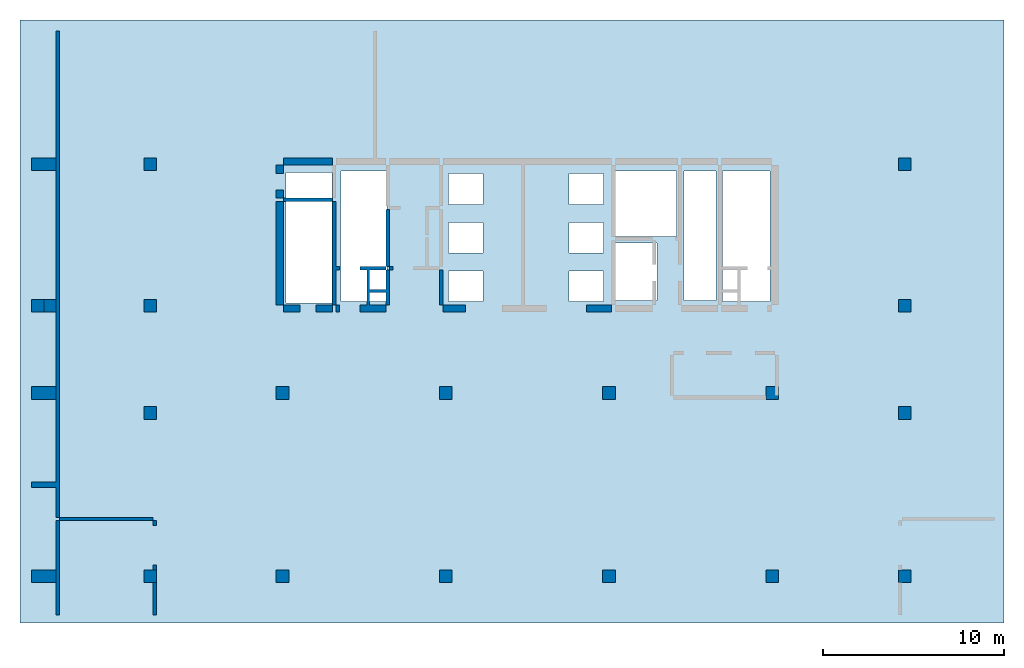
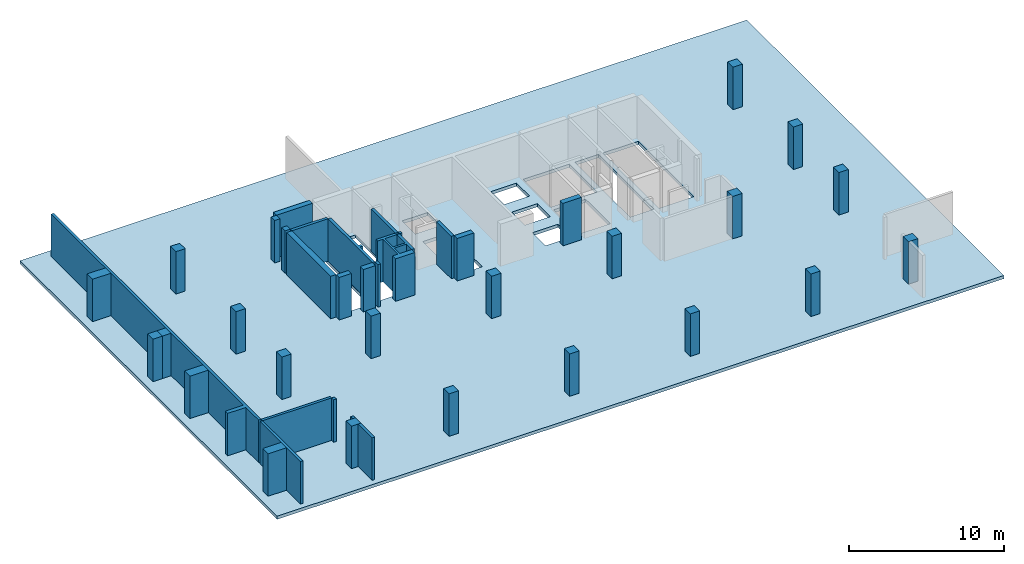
# One storey, part 1 of 2: 21 columns, 21 walls, 1 slab.
"""IFC4 building model written with IfcOpenShell, lengths in millimetres."""

from ifc_helpers import new_model, si_unit, frame, origin, place, context, project, spatial, triangles, element, save


model = new_model("IFC4")

# Units and contexts
model_context = context("Model", 3, precision=0.001, world=origin())
ifc_project = project(units=[si_unit("LENGTHUNIT", "METRE", prefix="MILLI"), si_unit("AREAUNIT", "SQUARE_METRE"), si_unit("VOLUMEUNIT", "CUBIC_METRE")], contexts=[model_context])

# Site, building, storey
site_placement = place(None, origin())
site = spatial("IfcSite", under=ifc_project, at=site_placement, Name="Site", CompositionType="ELEMENT")
building_placement = place(site_placement, origin())
building = spatial("IfcBuilding", under=site, at=building_placement, Name="INNOCEAN", CompositionType="ELEMENT")
storey_placement = place(building_placement, frame((0.0, 0.0, -27000.0)))
storey = spatial("IfcBuildingStorey", under=building, at=storey_placement, Name="B7", CompositionType="ELEMENT", Elevation=-27000.0)

# Columns
column_1_placement = place(storey_placement, origin())
element("IfcColumn", 1, at=column_1_placement, inside=storey, Name="B7_Columns_B7_001", context=model_context, shape_type="Tessellation", body=[
    triangles([(40114.8, 2023.7, 0.0), (40114.8, 2023.7, 3350.0), (40114.8, 2722.3, 0.0), (40114.8, 2722.3, 3350.0), (40813.0, 2023.7, 3350.0), (40813.0, 2023.7, 0.0), (40813.0, 2722.3, 0.0), (40813.0, 2722.3, 3350.0)], [[1, 2, 3], [3, 2, 4], [5, 6, 7], [5, 7, 8], [6, 5, 1], [1, 5, 2], [8, 7, 3], [8, 3, 4], [3, 7, 1], [1, 7, 6], [8, 4, 2], [8, 2, 5]], closed=True),
])
column_2_placement = place(storey_placement, origin())
element("IfcColumn", 2, at=column_2_placement, inside=storey, Name="B7_Columns_B7_002", context=model_context, shape_type="Tessellation", body=[
    triangles([(5843.1, 24721.0, 0.0), (5843.1, 24721.0, 3350.0), (5843.1, 25419.5, 0.0), (5843.1, 25419.5, 3350.0), (6541.2, 24721.0, 3350.0), (6541.2, 24721.0, 0.0), (6541.2, 25419.5, 0.0), (6541.2, 25419.5, 3350.0)], [[1, 2, 3], [3, 2, 4], [5, 6, 7], [5, 7, 8], [6, 5, 1], [1, 5, 2], [8, 7, 3], [8, 3, 4], [1, 3, 6], [3, 7, 6], [4, 2, 5], [8, 4, 5]], closed=True),
])
column_3_placement = place(storey_placement, origin())
element("IfcColumn", 3, at=column_3_placement, inside=storey, Name="B7_Columns_B7_003", context=model_context, shape_type="Tessellation", body=[
    triangles([(5843.1, 16922.4, 0.0), (5843.1, 16922.4, 3350.0), (5843.1, 17620.9, 0.0), (5843.1, 17620.9, 3350.0), (6541.2, 16922.4, 3350.0), (6541.2, 16922.4, 0.0), (6541.2, 17620.9, 0.0), (6541.2, 17620.9, 3350.0)], [[1, 2, 3], [3, 2, 4], [5, 6, 7], [5, 7, 8], [6, 5, 1], [1, 5, 2], [8, 7, 3], [8, 3, 4], [1, 3, 6], [3, 7, 6], [4, 2, 5], [8, 4, 5]], closed=True),
])
column_4_placement = place(storey_placement, origin())
element("IfcColumn", 4, at=column_4_placement, inside=storey, Name="B7_Columns_B7_004", context=model_context, shape_type="Tessellation", body=[
    triangles([(47413.4, 24721.0, 0.0), (47413.4, 24721.0, 3350.0), (47413.4, 25419.5, 0.0), (47413.4, 25419.5, 3350.0), (48111.6, 24721.0, 3350.0), (48111.6, 24721.0, 0.0), (48111.6, 25419.5, 0.0), (48111.6, 25419.5, 3350.0)], [[1, 2, 3], [3, 2, 4], [5, 6, 7], [5, 7, 8], [6, 5, 1], [1, 5, 2], [8, 7, 3], [8, 3, 4], [1, 3, 6], [3, 7, 6], [4, 2, 5], [8, 4, 5]], closed=True),
])
column_5_placement = place(storey_placement, origin())
element("IfcColumn", 5, at=column_5_placement, inside=storey, Name="B7_Columns_B7_005", context=model_context, shape_type="Tessellation", body=[
    triangles([(47413.4, 16922.4, 0.0), (47413.4, 16922.4, 3350.0), (47413.4, 17620.9, 0.0), (47413.4, 17620.9, 3350.0), (48111.6, 16922.4, 3350.0), (48111.6, 16922.4, 0.0), (48111.6, 17620.9, 0.0), (48111.6, 17620.9, 3350.0)], [[1, 2, 3], [3, 2, 4], [5, 6, 7], [5, 7, 8], [6, 5, 1], [1, 5, 2], [8, 7, 3], [8, 3, 4], [1, 3, 6], [3, 7, 6], [4, 2, 5], [8, 4, 5]], closed=True),
])
column_6_placement = place(storey_placement, origin())
element("IfcColumn", 6, at=column_6_placement, inside=storey, Name="B7_Columns_B7_006", context=model_context, shape_type="Tessellation", body=[
    triangles([(-363.9, 16922.4, 0.0), (-363.9, 16922.4, 3350.0), (-363.9, 17620.9, 0.0), (-363.9, 17620.9, 3350.0), (994.3, 16922.4, 3350.0), (994.3, 16922.4, 0.0), (994.3, 17620.9, 0.0), (994.3, 17620.9, 3350.0)], [[1, 2, 3], [3, 2, 4], [5, 6, 7], [5, 7, 8], [6, 5, 1], [1, 5, 2], [8, 7, 3], [8, 3, 4], [3, 7, 1], [1, 7, 6], [8, 4, 2], [8, 2, 5]], closed=True),
])
column_7_placement = place(storey_placement, origin())
element("IfcColumn", 7, at=column_7_placement, inside=storey, Name="B7_Columns_B7_007", context=model_context, shape_type="Tessellation", body=[
    triangles([(13129.0, 2023.7, 0.0), (13129.0, 2023.7, 3350.0), (13129.0, 2722.3, 0.0), (13129.0, 2722.3, 3350.0), (13827.2, 2023.7, 3350.0), (13827.2, 2023.7, 0.0), (13827.2, 2722.3, 0.0), (13827.2, 2722.3, 3350.0)], [[1, 2, 3], [3, 2, 4], [5, 6, 7], [5, 7, 8], [6, 5, 1], [1, 5, 2], [8, 7, 3], [8, 3, 4], [3, 7, 1], [1, 7, 6], [8, 4, 2], [8, 2, 5]], closed=True),
])
column_8_placement = place(storey_placement, origin())
element("IfcColumn", 8, at=column_8_placement, inside=storey, Name="B7_Columns_B7_008", context=model_context, shape_type="Tessellation", body=[
    triangles([(-363.9, 16922.4, 0.0), (-363.9, 16922.4, 3350.0), (-363.9, 17620.9, 0.0), (-363.9, 17620.9, 3350.0), (334.3, 16922.4, 3350.0), (334.3, 16922.4, 0.0), (334.3, 17620.9, 0.0), (334.3, 17620.9, 3350.0)], [[1, 2, 3], [3, 2, 4], [5, 6, 7], [5, 7, 8], [6, 5, 1], [1, 5, 2], [8, 7, 3], [8, 3, 4], [3, 7, 1], [1, 7, 6], [8, 4, 2], [8, 2, 5]], closed=True),
])
column_9_placement = place(storey_placement, origin())
element("IfcColumn", 9, at=column_9_placement, inside=storey, Name="B7_Columns_B7_009", context=model_context, shape_type="Tessellation", body=[
    triangles([(47413.4, 2023.7, 0.0), (47413.4, 2023.7, 3350.0), (47413.4, 2722.3, 0.0), (47413.4, 2722.3, 3350.0), (48111.6, 2023.7, 3350.0), (48111.6, 2023.7, 0.0), (48111.6, 2722.3, 0.0), (48111.6, 2722.3, 3350.0)], [[1, 2, 3], [3, 2, 4], [5, 6, 7], [5, 7, 8], [6, 5, 1], [1, 5, 2], [8, 7, 3], [8, 3, 4], [3, 7, 1], [1, 7, 6], [8, 4, 2], [8, 2, 5]], closed=True),
])
column_10_placement = place(storey_placement, origin())
element("IfcColumn", 10, at=column_10_placement, inside=storey, Name="B7_Columns_B7_010", context=model_context, shape_type="Tessellation", body=[
    triangles([(13129.0, 12121.3, 0.0), (13129.0, 12121.3, 3350.0), (13129.0, 12819.8, 0.0), (13129.0, 12819.8, 3350.0), (13827.2, 12121.3, 3350.0), (13827.2, 12121.3, 0.0), (13827.2, 12819.8, 0.0), (13827.2, 12819.8, 3350.0)], [[1, 2, 3], [3, 2, 4], [5, 6, 7], [5, 7, 8], [6, 5, 1], [1, 5, 2], [8, 7, 3], [8, 3, 4], [3, 7, 1], [1, 7, 6], [8, 4, 2], [8, 2, 5]], closed=True),
])
column_11_placement = place(storey_placement, origin())
element("IfcColumn", 11, at=column_11_placement, inside=storey, Name="B7_Columns_B7_011", context=model_context, shape_type="Tessellation", body=[
    triangles([(5843.1, 11016.3, 0.0), (5843.1, 11016.3, 3350.0), (5843.1, 11727.5, 0.0), (5843.1, 11727.5, 3350.0), (6541.2, 11016.3, 3350.0), (6541.2, 11016.3, 0.0), (6541.2, 11727.5, 0.0), (6541.2, 11727.5, 3350.0)], [[1, 2, 3], [3, 2, 4], [5, 6, 7], [5, 7, 8], [6, 5, 1], [1, 5, 2], [8, 7, 3], [8, 3, 4], [3, 7, 1], [1, 7, 6], [8, 4, 2], [8, 2, 5]], closed=True),
])
column_12_placement = place(storey_placement, origin())
element("IfcColumn", 12, at=column_12_placement, inside=storey, Name="B7_Columns_B7_012", context=model_context, shape_type="Tessellation", body=[
    triangles([(40114.8, 12121.3, 0.0), (40114.8, 12121.3, 3350.0), (40114.8, 12819.8, 0.0), (40114.8, 12819.8, 3350.0), (40813.0, 12121.3, 3350.0), (40813.0, 12121.3, 0.0), (40813.0, 12819.8, 0.0), (40813.0, 12819.8, 3350.0)], [[1, 2, 3], [3, 2, 4], [5, 6, 7], [5, 7, 8], [6, 5, 1], [1, 5, 2], [8, 7, 3], [8, 3, 4], [1, 3, 6], [3, 7, 6], [4, 2, 5], [8, 4, 5]], closed=True),
])
column_13_placement = place(storey_placement, origin())
element("IfcColumn", 13, at=column_13_placement, inside=storey, Name="B7_Columns_B7_013", context=model_context, shape_type="Tessellation", body=[
    triangles([(5843.1, 2023.7, 0.0), (5843.1, 2023.7, 3350.0), (5843.1, 2722.3, 0.0), (5843.1, 2722.3, 3350.0), (6541.2, 2023.7, 3350.0), (6541.2, 2023.7, 0.0), (6541.2, 2722.3, 0.0), (6541.2, 2722.3, 3350.0)], [[1, 2, 3], [3, 2, 4], [5, 6, 7], [5, 7, 8], [6, 5, 1], [1, 5, 2], [8, 7, 3], [8, 3, 4], [1, 3, 6], [3, 7, 6], [4, 2, 5], [8, 4, 5]], closed=True),
])
column_14_placement = place(storey_placement, origin())
element("IfcColumn", 14, at=column_14_placement, inside=storey, Name="B7_Columns_B7_014", context=model_context, shape_type="Tessellation", body=[
    triangles([(-363.9, 2023.7, 0.0), (-363.9, 2023.7, 3350.0), (-363.9, 2722.3, 0.0), (-363.9, 2722.3, 3350.0), (994.3, 2023.7, 3350.0), (994.3, 2023.7, 0.0), (994.3, 2722.3, 0.0), (994.3, 2722.3, 3350.0)], [[1, 2, 3], [3, 2, 4], [5, 6, 7], [5, 7, 8], [6, 5, 1], [1, 5, 2], [8, 7, 3], [8, 3, 4], [3, 7, 1], [1, 7, 6], [8, 4, 2], [8, 2, 5]], closed=True),
])
column_15_placement = place(storey_placement, origin())
element("IfcColumn", 15, at=column_15_placement, inside=storey, Name="B7_Columns_B7_015", context=model_context, shape_type="Tessellation", body=[
    triangles([(-363.9, 24721.0, 0.0), (-363.9, 24721.0, 3350.0), (-363.9, 25419.5, 0.0), (-363.9, 25419.5, 3350.0), (994.3, 24721.0, 3350.0), (994.3, 24721.0, 0.0), (994.3, 25419.5, 0.0), (994.3, 25419.5, 3350.0)], [[1, 2, 3], [3, 2, 4], [5, 6, 7], [5, 7, 8], [6, 5, 1], [1, 5, 2], [8, 7, 3], [8, 3, 4], [3, 7, 1], [1, 7, 6], [8, 4, 2], [8, 2, 5]], closed=True),
])
column_16_placement = place(storey_placement, origin())
element("IfcColumn", 16, at=column_16_placement, inside=storey, Name="B7_Columns_B7_016", context=model_context, shape_type="Tessellation", body=[
    triangles([(-363.9, 12121.3, 0.0), (-363.9, 12121.3, 3350.0), (-363.9, 12819.8, 0.0), (-363.9, 12819.8, 3350.0), (994.3, 12121.3, 3350.0), (994.3, 12121.3, 0.0), (994.3, 12819.8, 0.0), (994.3, 12819.8, 3350.0)], [[1, 2, 3], [3, 2, 4], [5, 6, 7], [5, 7, 8], [6, 5, 1], [1, 5, 2], [8, 7, 3], [8, 3, 4], [3, 7, 1], [1, 7, 6], [8, 4, 2], [8, 2, 5]], closed=True),
])
column_17_placement = place(storey_placement, origin())
element("IfcColumn", 17, at=column_17_placement, inside=storey, Name="B7_Columns_B7_017", context=model_context, shape_type="Tessellation", body=[
    triangles([(31128.0, 12121.3, 0.0), (31128.0, 12121.3, 3350.0), (31128.0, 12819.8, 0.0), (31128.0, 12819.8, 3350.0), (31826.2, 12121.3, 3350.0), (31826.2, 12121.3, 0.0), (31826.2, 12819.8, 0.0), (31826.2, 12819.8, 3350.0)], [[1, 2, 3], [3, 2, 4], [5, 6, 7], [5, 7, 8], [6, 5, 1], [1, 5, 2], [8, 7, 3], [8, 3, 4], [3, 7, 1], [1, 7, 6], [8, 4, 2], [8, 2, 5]], closed=True),
])
column_18_placement = place(storey_placement, origin())
element("IfcColumn", 18, at=column_18_placement, inside=storey, Name="B7_Columns_B7_018", context=model_context, shape_type="Tessellation", body=[
    triangles([(22128.5, 12121.3, 0.0), (22128.5, 12121.3, 3350.0), (22128.5, 12819.8, 0.0), (22128.5, 12819.8, 3350.0), (22826.7, 12121.3, 3350.0), (22826.7, 12121.3, 0.0), (22826.7, 12819.8, 0.0), (22826.7, 12819.8, 3350.0)], [[1, 2, 3], [3, 2, 4], [5, 6, 7], [5, 7, 8], [6, 5, 1], [1, 5, 2], [8, 7, 3], [8, 3, 4], [3, 7, 1], [1, 7, 6], [8, 4, 2], [8, 2, 5]], closed=True),
])
column_19_placement = place(storey_placement, origin())
element("IfcColumn", 19, at=column_19_placement, inside=storey, Name="B7_Columns_B7_019", context=model_context, shape_type="Tessellation", body=[
    triangles([(31128.0, 2023.7, 0.0), (31128.0, 2023.7, 3350.0), (31128.0, 2722.3, 0.0), (31128.0, 2722.3, 3350.0), (31826.2, 2023.7, 3350.0), (31826.2, 2023.7, 0.0), (31826.2, 2722.3, 0.0), (31826.2, 2722.3, 3350.0)], [[1, 2, 3], [3, 2, 4], [5, 6, 7], [5, 7, 8], [6, 5, 1], [1, 5, 2], [8, 7, 3], [8, 3, 4], [3, 7, 1], [1, 7, 6], [8, 4, 2], [8, 2, 5]], closed=True),
])
column_20_placement = place(storey_placement, origin())
element("IfcColumn", 20, at=column_20_placement, inside=storey, Name="B7_Columns_B7_020", context=model_context, shape_type="Tessellation", body=[
    triangles([(22128.5, 2023.7, 0.0), (22128.5, 2023.7, 3350.0), (22128.5, 2722.3, 0.0), (22128.5, 2722.3, 3350.0), (22826.7, 2023.7, 3350.0), (22826.7, 2023.7, 0.0), (22826.7, 2722.3, 0.0), (22826.7, 2722.3, 3350.0)], [[1, 2, 3], [3, 2, 4], [5, 6, 7], [5, 7, 8], [6, 5, 1], [1, 5, 2], [8, 7, 3], [8, 3, 4], [3, 7, 1], [1, 7, 6], [8, 4, 2], [8, 2, 5]], closed=True),
])
column_21_placement = place(storey_placement, origin())
element("IfcColumn", 21, at=column_21_placement, inside=storey, Name="B7_Columns_B7_021", context=model_context, shape_type="Tessellation", body=[
    triangles([(47413.4, 11016.3, 0.0), (47413.4, 11016.3, 3350.0), (47413.4, 11727.5, 0.0), (47413.4, 11727.5, 3350.0), (48111.6, 11016.3, 3350.0), (48111.6, 11016.3, 0.0), (48111.6, 11727.5, 0.0), (48111.6, 11727.5, 3350.0)], [[1, 2, 3], [3, 2, 4], [5, 6, 7], [5, 7, 8], [6, 5, 1], [1, 5, 2], [8, 7, 3], [8, 3, 4], [3, 7, 1], [1, 7, 6], [8, 4, 2], [8, 2, 5]], closed=True),
])

# Slab
slab_placement = place(storey_placement, origin())
element("IfcSlab", 22, at=slab_placement, inside=storey, Name="B7_Slab_B7_001", context=model_context, shape_type="Tessellation", body=[
    triangles([(-987.250996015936, 33023.3766233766, 0.0), (53241.0358565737, 33023.3766233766, 0.0), (-987.250996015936, 33023.3766233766, -250.0), (53241.0358565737, 33023.3766233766, -250.0), (-987.250996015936, -211.688311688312, 0.0), (-987.250996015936, -211.688311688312, -250.0), (53241.0358565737, -211.688311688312, 0.0), (53241.0358565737, -211.688311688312, -250.0), (34130.6772908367, 20745.4545454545, -250.0), (31733.0677290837, 20745.4545454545, 0.0), (31733.0677290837, 20745.4545454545, -250.0), (34130.6772908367, 20745.4545454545, 0.0), (31733.0677290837, 17570.1298701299, 0.0), (31733.0677290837, 17570.1298701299, -250.0), (34130.6772908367, 17570.1298701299, 0.0), (34130.6772908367, 17570.1298701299, -250.0), (31168.9243027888, 19193.0735930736, 0.0), (29264.9402390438, 19193.0735930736, 0.0), (29264.9402390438, 19193.0735930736, -250.0), (31168.9243027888, 19193.0735930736, -250.0), (31168.9243027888, 17499.5670995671, 0.0), (31168.9243027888, 17499.5670995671, -250.0), (29264.9402390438, 17499.5670995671, 0.0), (29264.9402390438, 17499.5670995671, -250.0), (31168.9243027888, 21874.4588744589, 0.0), (29264.9402390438, 21874.4588744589, 0.0), (29264.9402390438, 21874.4588744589, -250.0), (31168.9243027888, 21874.4588744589, -250.0), (29264.9402390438, 20180.9523809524, 0.0), (29264.9402390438, 20180.9523809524, -250.0), (31168.9243027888, 20180.9523809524, 0.0), (31168.9243027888, 20180.9523809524, -250.0), (24540.2390438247, 19193.0735930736, -250.0), (22636.2549800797, 19193.0735930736, 0.0), (22636.2549800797, 19193.0735930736, -250.0), (24540.2390438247, 19193.0735930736, 0.0), (22636.2549800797, 17499.5670995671, 0.0), (22636.2549800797, 17499.5670995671, -250.0), (24540.2390438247, 17499.5670995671, 0.0), (24540.2390438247, 17499.5670995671, -250.0), (24540.2390438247, 21874.4588744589, -250.0), (22636.2549800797, 21874.4588744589, 0.0), (22636.2549800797, 21874.4588744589, -250.0), (24540.2390438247, 21874.4588744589, 0.0), (22636.2549800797, 20180.9523809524, 0.0), (22636.2549800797, 20180.9523809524, -250.0), (24540.2390438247, 20180.9523809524, 0.0), (24540.2390438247, 20180.9523809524, -250.0), (16219.1235059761, 24626.4069264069, 0.0), (13680.4780876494, 24626.4069264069, 0.0), (13680.4780876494, 24626.4069264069, -250.0), (16219.1235059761, 24626.4069264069, -250.0), (13680.4780876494, 17429.0043290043, 0.0), (13680.4780876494, 17429.0043290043, -250.0), (16219.1235059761, 17429.0043290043, 0.0), (16219.1235059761, 17429.0043290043, -250.0), (40336.2549800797, 24696.9696969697, -250.0), (37727.0916334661, 24696.9696969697, 0.0), (37727.0916334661, 24696.9696969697, -250.0), (40336.2549800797, 24696.9696969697, 0.0), (37727.0916334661, 17499.5670995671, 0.0), (37727.0916334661, 17499.5670995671, -250.0), (40336.2549800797, 17499.5670995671, 0.0), (40336.2549800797, 17499.5670995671, -250.0), (37374.5019920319, 24696.9696969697, 0.0), (35611.5537848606, 24696.9696969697, 0.0), (35611.5537848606, 24696.9696969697, -250.0), (37374.5019920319, 24696.9696969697, -250.0), (35611.5537848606, 17570.1298701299, 0.0), (35611.5537848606, 17570.1298701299, -250.0), (37374.5019920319, 17570.1298701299, 0.0), (37374.5019920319, 17570.1298701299, -250.0), (35188.4462151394, 24696.9696969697, 0.0), (31733.0677290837, 24696.9696969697, 0.0), (31733.0677290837, 24696.9696969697, -250.0), (35188.4462151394, 24696.9696969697, -250.0), (31733.0677290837, 21098.2683982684, 0.0), (31733.0677290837, 21098.2683982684, -250.0), (35188.4462151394, 21098.2683982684, 0.0), (35188.4462151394, 21098.2683982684, -250.0), (31168.9243027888, 24555.8441558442, 0.0), (29264.9402390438, 24555.8441558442, 0.0), (29264.9402390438, 24555.8441558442, -250.0), (31168.9243027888, 24555.8441558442, -250.0), (29264.9402390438, 22862.3376623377, 0.0), (29264.9402390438, 22862.3376623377, -250.0), (31168.9243027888, 22862.3376623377, 0.0), (31168.9243027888, 22862.3376623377, -250.0), (19251.3944223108, 24696.9696969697, 0.0), (16712.7490039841, 24696.9696969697, 0.0), (16712.7490039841, 24696.9696969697, -250.0), (19251.3944223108, 24696.9696969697, -250.0), (16712.7490039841, 17499.5670995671, 0.0), (16712.7490039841, 17499.5670995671, -250.0), (19251.3944223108, 17499.5670995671, 0.0), (19251.3944223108, 17499.5670995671, -250.0), (24540.2390438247, 24555.8441558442, -250.0), (22636.2549800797, 24555.8441558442, 0.0), (22636.2549800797, 24555.8441558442, -250.0), (24540.2390438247, 24555.8441558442, 0.0), (22636.2549800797, 22862.3376623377, 0.0), (22636.2549800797, 22862.3376623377, -250.0), (24540.2390438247, 22862.3376623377, 0.0), (24540.2390438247, 22862.3376623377, -250.0)], [[1, 2, 3], [3, 2, 4], [5, 1, 6], [6, 1, 3], [2, 7, 4], [4, 7, 8], [7, 5, 8], [8, 5, 6], [9, 10, 11], [12, 10, 9], [10, 13, 14], [10, 14, 11], [15, 12, 9], [15, 9, 16], [14, 15, 16], [13, 15, 14], [17, 18, 19], [17, 19, 20], [21, 17, 20], [21, 20, 22], [23, 21, 22], [23, 22, 24], [18, 23, 24], [18, 24, 19], [25, 26, 27], [25, 27, 28], [26, 29, 30], [26, 30, 27], [31, 25, 28], [31, 28, 32], [29, 31, 32], [29, 32, 30], [33, 34, 35], [36, 34, 33], [34, 37, 38], [34, 38, 35], [39, 36, 33], [39, 33, 40], [38, 39, 40], [37, 39, 38], [41, 42, 43], [44, 42, 41], [42, 45, 46], [42, 46, 43], [47, 44, 41], [47, 41, 48], [46, 47, 48], [45, 47, 46], [49, 50, 51], [49, 51, 52], [50, 53, 54], [50, 54, 51], [55, 49, 52], [55, 52, 56], [53, 55, 56], [53, 56, 54], [57, 58, 59], [60, 58, 57], [58, 61, 62], [58, 62, 59], [63, 60, 57], [63, 57, 64], [62, 63, 64], [61, 63, 62], [65, 66, 67], [65, 67, 68], [66, 69, 70], [66, 70, 67], [71, 65, 68], [71, 68, 72], [69, 71, 72], [69, 72, 70], [73, 74, 75], [73, 75, 76], [74, 77, 78], [74, 78, 75], [79, 73, 76], [79, 76, 80], [77, 79, 80], [77, 80, 78], [81, 82, 83], [81, 83, 84], [82, 85, 86], [82, 86, 83], [87, 81, 84], [87, 84, 88], [85, 87, 88], [85, 88, 86], [89, 90, 91], [89, 91, 92], [90, 93, 94], [90, 94, 91], [95, 89, 92], [95, 92, 96], [93, 95, 96], [93, 96, 94], [97, 98, 99], [100, 98, 97], [98, 101, 102], [98, 102, 99], [103, 100, 97], [103, 97, 104], [102, 103, 104], [101, 103, 102], [63, 61, 7], [7, 2, 63], [71, 69, 61], [61, 69, 7], [69, 15, 7], [2, 60, 63], [13, 21, 15], [15, 21, 7], [79, 12, 69], [69, 12, 15], [2, 58, 60], [2, 65, 58], [13, 17, 21], [21, 23, 7], [17, 10, 31], [2, 66, 65], [12, 77, 10], [10, 77, 31], [2, 73, 66], [66, 73, 79], [31, 18, 17], [77, 25, 31], [31, 29, 18], [77, 87, 25], [23, 39, 7], [2, 74, 73], [74, 81, 87], [87, 85, 25], [25, 85, 26], [23, 36, 39], [18, 36, 23], [74, 82, 81], [29, 47, 18], [18, 47, 36], [26, 44, 29], [29, 44, 47], [47, 45, 36], [36, 45, 34], [34, 95, 37], [45, 95, 34], [85, 103, 26], [26, 103, 44], [82, 103, 85], [45, 42, 95], [103, 42, 44], [82, 100, 103], [103, 101, 42], [39, 5, 7], [37, 5, 39], [95, 5, 37], [95, 55, 5], [93, 55, 95], [55, 53, 5], [101, 89, 42], [42, 89, 95], [98, 89, 101], [90, 49, 93], [93, 49, 55], [90, 50, 49], [50, 1, 53], [89, 1, 90], [53, 1, 5], [90, 1, 50], [2, 1, 74], [74, 1, 82], [82, 1, 100], [100, 1, 98], [98, 1, 89], [13, 10, 17], [69, 66, 79], [65, 71, 58], [58, 71, 61], [77, 74, 87], [79, 77, 12], [62, 64, 8], [4, 8, 64], [70, 72, 62], [70, 62, 8], [16, 70, 8], [57, 4, 64], [22, 14, 16], [22, 16, 8], [9, 80, 70], [9, 70, 16], [59, 4, 57], [68, 4, 59], [20, 14, 22], [24, 22, 8], [11, 20, 32], [67, 4, 68], [78, 9, 11], [78, 11, 32], [76, 4, 67], [76, 67, 80], [19, 32, 20], [28, 78, 32], [30, 32, 19], [88, 78, 28], [40, 24, 8], [75, 4, 76], [84, 75, 88], [86, 88, 28], [86, 28, 27], [33, 24, 40], [33, 19, 24], [83, 75, 84], [48, 30, 19], [48, 19, 33], [41, 27, 30], [41, 30, 48], [46, 48, 33], [46, 33, 35], [96, 35, 38], [96, 46, 35], [104, 86, 27], [104, 27, 41], [104, 83, 86], [43, 46, 96], [43, 104, 41], [97, 83, 104], [102, 104, 43], [6, 40, 8], [6, 38, 40], [6, 96, 38], [56, 96, 6], [56, 94, 96], [54, 56, 6], [92, 102, 43], [92, 43, 96], [92, 99, 102], [52, 91, 94], [52, 94, 56], [51, 91, 52], [3, 51, 54], [3, 92, 91], [3, 54, 6], [3, 91, 51], [3, 4, 75], [3, 75, 83], [3, 83, 97], [3, 97, 99], [3, 99, 92], [11, 14, 20], [67, 70, 80], [72, 68, 59], [72, 59, 62], [75, 78, 88], [78, 80, 9]], closed=True),
])

# Walls
wall_1_placement = place(storey_placement, origin())
element("IfcWall", 23, at=wall_1_placement, inside=storey, Name="B7_Walls_B7_001", context=model_context, shape_type="Tessellation", body=[
    triangles([(6541.2, 2023.7, 0.0), (6338.1, 2023.7, 0.0), (6338.1, 2023.7, 3350.0), (6541.2, 2023.7, 3350.0), (6541.2, 220.2, 0.0), (6541.2, 220.2, 3350.0), (6338.1, 220.2, 0.0), (6338.1, 220.2, 3350.0)], [[1, 2, 3], [1, 3, 4], [5, 1, 4], [5, 4, 6], [7, 5, 6], [7, 6, 8], [2, 7, 8], [2, 8, 3], [2, 1, 5], [2, 5, 7], [4, 3, 6], [6, 3, 8]], closed=True),
])
wall_2_placement = place(storey_placement, origin())
element("IfcWall", 24, at=wall_2_placement, inside=storey, Name="B7_Walls_B7_002", context=model_context, shape_type="Tessellation", body=[
    triangles([(1184.7, 220.2, 0.0), (1184.7, 5427.7, 0.0), (1184.7, 5427.7, 3350.0), (1184.7, 220.2, 3350.0), (994.3, 220.2, 0.0), (994.3, 220.2, 3350.0), (994.3, 5427.7, 0.0), (994.3, 5427.7, 3350.0)], [[1, 2, 3], [1, 3, 4], [5, 1, 4], [5, 4, 6], [7, 5, 6], [7, 6, 8], [2, 7, 8], [2, 8, 3], [7, 2, 1], [7, 1, 5], [3, 8, 4], [4, 8, 6]], closed=True),
])
wall_3_placement = place(storey_placement, origin())
element("IfcWall", 25, at=wall_3_placement, inside=storey, Name="B7_Walls_B7_003", context=model_context, shape_type="Tessellation", body=[
    triangles([(6541.2, 2722.3, 0.0), (6541.2, 2976.3, 0.0), (6541.2, 2976.3, 3350.0), (6541.2, 2722.3, 3350.0), (6338.1, 2722.3, 0.0), (6338.1, 2722.3, 3350.0), (6338.1, 2976.3, 0.0), (6338.1, 2976.3, 3350.0)], [[1, 2, 3], [1, 3, 4], [5, 1, 4], [5, 4, 6], [7, 5, 6], [7, 6, 8], [2, 7, 8], [2, 8, 3], [2, 1, 5], [7, 2, 5], [4, 3, 6], [3, 8, 6]], closed=True),
])
wall_4_placement = place(storey_placement, origin())
element("IfcWall", 26, at=wall_4_placement, inside=storey, Name="B7_Walls_B7_004", context=model_context, shape_type="Tessellation", body=[
    triangles([(6338.1, 5173.7, 0.0), (6541.2, 5173.7, 0.0), (6541.2, 5173.7, 3350.0), (6338.1, 5173.7, 3350.0), (6338.1, 5427.7, 0.0), (6338.1, 5427.7, 3350.0), (6541.2, 5427.7, 0.0), (6541.2, 5427.7, 3350.0)], [[1, 2, 3], [1, 3, 4], [5, 1, 4], [5, 4, 6], [7, 5, 6], [7, 6, 8], [2, 7, 8], [2, 8, 3], [7, 2, 1], [5, 7, 1], [3, 8, 4], [8, 6, 4]], closed=True),
])
wall_5_placement = place(storey_placement, origin())
element("IfcWall", 27, at=wall_5_placement, inside=storey, Name="B7_Walls_B7_005", context=model_context, shape_type="Tessellation", body=[
    triangles([(6338.1, 5427.7, 0.0), (6338.1, 5618.2, 0.0), (6338.1, 5618.2, 3350.0), (6338.1, 5427.7, 3350.0), (1184.7, 5427.7, 0.0), (1184.7, 5427.7, 3350.0), (1184.7, 5618.2, 0.0), (1184.7, 5618.2, 3350.0)], [[1, 2, 3], [1, 3, 4], [5, 1, 4], [5, 4, 6], [7, 5, 6], [7, 6, 8], [2, 7, 8], [2, 8, 3], [7, 2, 1], [7, 1, 5], [3, 8, 4], [4, 8, 6]], closed=True),
])
wall_6_placement = place(storey_placement, origin())
element("IfcWall", 28, at=wall_6_placement, inside=storey, Name="B7_Walls_B7_006", context=model_context, shape_type="Tessellation", body=[
    triangles([(-365.0, 7575.0, 0.0), (-365.0, 7270.0, 0.0), (-365.0, 7270.0, 3350.0), (-365.0, 7575.0, 3350.0), (994.3, 7575.0, 0.0), (994.3, 7575.0, 3350.0), (994.3, 32417.9, 0.0), (994.3, 32417.9, 3350.0), (1184.7, 32417.9, 0.0), (1184.7, 32417.9, 3350.0), (1184.7, 5618.2, 0.0), (1184.7, 5618.2, 3350.0), (994.3, 5618.2, 0.0), (994.3, 5618.2, 3350.0), (994.3, 7269.4, 0.0), (994.3, 7269.4, 3350.0), (-363.9, 7269.4, 0.0), (-363.9, 7269.4, 3350.0), (-363.9, 7270.0, 0.0), (-363.9, 7270.0, 3350.0)], [[1, 2, 3], [1, 3, 4], [5, 1, 4], [5, 4, 6], [7, 5, 6], [7, 6, 8], [9, 7, 8], [9, 8, 10], [11, 9, 10], [11, 10, 12], [13, 11, 12], [13, 12, 14], [15, 13, 14], [15, 14, 16], [17, 15, 16], [17, 16, 18], [19, 17, 18], [19, 18, 20], [2, 19, 20], [2, 20, 3], [15, 11, 13], [5, 11, 15], [19, 15, 17], [19, 5, 15], [1, 19, 2], [1, 5, 19], [7, 9, 5], [9, 11, 5], [12, 16, 14], [12, 6, 16], [16, 20, 18], [6, 20, 16], [20, 4, 3], [6, 4, 20], [10, 8, 6], [12, 10, 6]], closed=True),
])
wall_7_placement = place(storey_placement, origin())
element("IfcWall", 29, at=wall_7_placement, inside=storey, Name="B7_Walls_B7_007", context=model_context, shape_type="Tessellation", body=[
    triangles([(14436.4, 16922.4, 0.0), (14436.4, 17316.1, 0.0), (14436.4, 17316.1, 3350.0), (14436.4, 16922.4, 3350.0), (13535.2, 16922.4, 0.0), (13535.2, 16922.4, 3350.0), (13535.2, 17316.1, 0.0), (13535.2, 17316.1, 3350.0)], [[1, 2, 3], [1, 3, 4], [5, 1, 4], [5, 4, 6], [7, 5, 6], [7, 6, 8], [2, 7, 8], [2, 8, 3], [7, 2, 1], [7, 1, 5], [3, 8, 4], [4, 8, 6]], closed=True),
])
wall_8_placement = place(storey_placement, origin())
element("IfcWall", 30, at=wall_8_placement, inside=storey, Name="B7_Walls_B7_008", context=model_context, shape_type="Tessellation", body=[
    triangles([(16226.2, 16922.4, 0.0), (16226.2, 17316.1, 0.0), (16226.2, 17316.1, 3350.0), (16226.2, 16922.4, 3350.0), (15337.6, 16922.4, 0.0), (15337.6, 16922.4, 3350.0), (15337.6, 17316.1, 0.0), (15337.6, 17316.1, 3350.0)], [[1, 2, 3], [1, 3, 4], [5, 1, 4], [5, 4, 6], [7, 5, 6], [7, 6, 8], [2, 7, 8], [2, 8, 3], [7, 2, 1], [7, 1, 5], [3, 8, 4], [4, 8, 6]], closed=True),
])
wall_9_placement = place(storey_placement, origin())
element("IfcWall", 31, at=wall_9_placement, inside=storey, Name="B7_Walls_B7_009", context=model_context, shape_type="Tessellation", body=[
    triangles([(16632.4, 17316.1, 0.0), (16429.3, 17316.1, 0.0), (16429.3, 17316.1, 3350.0), (16632.4, 17316.1, 3350.0), (16632.4, 16922.4, 0.0), (16632.4, 16922.4, 3350.0), (16429.3, 16922.4, 0.0), (16429.3, 16922.4, 3350.0)], [[1, 2, 3], [1, 3, 4], [5, 1, 4], [5, 4, 6], [7, 5, 6], [7, 6, 8], [2, 7, 8], [2, 8, 3], [2, 1, 5], [2, 5, 7], [4, 3, 6], [6, 3, 8]], closed=True),
])
wall_10_placement = place(storey_placement, origin())
element("IfcWall", 32, at=wall_10_placement, inside=storey, Name="B7_Walls_B7_010", context=model_context, shape_type="Tessellation", body=[
    triangles([(18130.0, 19245.0, 0.0), (18130.0, 17316.1, 0.0), (18130.0, 17316.1, 3350.0), (18130.0, 19245.0, 3350.0), (17749.4, 17316.1, 0.0), (17749.4, 17316.1, 3350.0), (17749.4, 16922.4, 0.0), (17749.4, 16922.4, 3350.0), (19183.7, 16922.4, 0.0), (19183.7, 16922.4, 3350.0), (19183.7, 17316.1, 0.0), (19183.7, 17316.1, 3350.0), (19374.1, 17316.1, 0.0), (19374.1, 17316.1, 3350.0), (19374.1, 19246.7, 0.0), (19374.1, 19246.7, 3350.0), (19183.7, 19246.7, 0.0), (19183.7, 19246.7, 3350.0), (19183.7, 19449.9, 0.0), (19183.7, 19449.9, 3350.0), (17749.4, 19449.9, 0.0), (17749.4, 19449.9, 3350.0), (17749.4, 19246.7, 0.0), (17749.4, 19246.7, 3350.0), (18130.2, 19246.7, 0.0), (18130.2, 19246.7, 3350.0), (18130.2, 19245.0, 0.0), (18130.2, 19245.0, 3350.0), (18282.5, 17316.1, 0.0), (18282.5, 17316.1, 3350.0), (18282.5, 18014.7, 0.0), (18282.5, 18014.7, 3350.0), (19183.7, 18014.7, 0.0), (19183.7, 18014.7, 3350.0), (19183.7, 18167.1, 0.0), (19183.7, 18167.1, 3350.0), (18282.5, 18167.1, 0.0), (18282.5, 18167.1, 3350.0), (18282.5, 19246.7, 0.0), (18282.5, 19246.7, 3350.0)], [[1, 2, 3], [1, 3, 4], [2, 5, 6], [2, 6, 3], [5, 7, 8], [5, 8, 6], [7, 9, 10], [7, 10, 8], [9, 11, 12], [9, 12, 10], [11, 13, 14], [11, 14, 12], [15, 16, 14], [13, 15, 14], [15, 17, 18], [15, 18, 16], [17, 19, 20], [17, 20, 18], [19, 21, 22], [19, 22, 20], [21, 23, 24], [21, 24, 22], [23, 25, 26], [23, 26, 24], [25, 27, 28], [25, 28, 26], [27, 1, 4], [27, 4, 28], [11, 29, 30], [11, 30, 12], [29, 31, 32], [29, 32, 30], [31, 33, 34], [31, 34, 32], [33, 11, 12], [33, 12, 34], [17, 35, 36], [17, 36, 18], [35, 37, 38], [35, 38, 36], [37, 39, 40], [37, 40, 38], [39, 17, 18], [39, 18, 40], [33, 13, 11], [35, 13, 33], [29, 11, 9], [7, 29, 9], [2, 29, 7], [5, 2, 7], [31, 35, 33], [31, 29, 2], [15, 13, 35], [37, 35, 31], [17, 15, 35], [39, 19, 17], [27, 39, 37], [1, 27, 37], [25, 39, 27], [21, 25, 23], [21, 19, 39], [21, 39, 25], [2, 1, 37], [2, 37, 31], [14, 34, 12], [14, 36, 34], [12, 30, 10], [30, 8, 10], [30, 3, 8], [3, 6, 8], [36, 32, 34], [30, 32, 3], [14, 16, 36], [36, 38, 32], [16, 18, 36], [20, 40, 18], [40, 28, 38], [28, 4, 38], [40, 26, 28], [26, 22, 24], [20, 22, 40], [40, 22, 26], [4, 3, 38], [38, 3, 32]], closed=True),
])
wall_11_placement = place(storey_placement, origin())
element("IfcWall", 33, at=wall_11_placement, inside=storey, Name="B7_Walls_B7_011", context=model_context, shape_type="Tessellation", body=[
    triangles([(16632.4, 19449.9, 0.0), (16429.3, 19449.9, 0.0), (16429.3, 19449.9, 3350.0), (16632.4, 19449.9, 3350.0), (16632.4, 19246.7, 0.0), (16632.4, 19246.7, 3350.0), (16429.3, 19246.7, 0.0), (16429.3, 19246.7, 3350.0), (16429.3, 17316.1, 3350.0), (16429.3, 17316.1, 0.0), (16226.2, 17316.1, 0.0), (16226.2, 17316.1, 3350.0), (16226.2, 19246.7, 3350.0), (16226.2, 19246.7, 0.0), (16226.2, 19449.9, 0.0), (16226.2, 19449.9, 3350.0), (16226.2, 23019.0, 0.0), (16226.2, 23019.0, 3350.0), (16429.3, 23019.0, 0.0), (16429.3, 23019.0, 3350.0)], [[1, 2, 3], [1, 3, 4], [5, 1, 4], [5, 4, 6], [7, 5, 6], [7, 6, 8], [7, 8, 9], [10, 7, 9], [11, 10, 9], [11, 9, 12], [11, 12, 13], [14, 11, 13], [15, 14, 13], [15, 13, 16], [17, 15, 16], [17, 16, 18], [19, 17, 18], [19, 18, 20], [2, 19, 20], [2, 20, 3], [14, 7, 10], [14, 10, 11], [2, 1, 5], [2, 5, 7], [15, 2, 7], [15, 7, 14], [19, 2, 15], [17, 19, 15], [8, 13, 9], [9, 13, 12], [4, 3, 6], [6, 3, 8], [3, 16, 8], [8, 16, 13], [3, 20, 16], [20, 18, 16]], closed=True),
])
wall_12_placement = place(storey_placement, origin())
element("IfcWall", 34, at=wall_12_placement, inside=storey, Name="B7_Walls_B7_012", context=model_context, shape_type="Tessellation", body=[
    triangles([(13535.2, 17316.1, 0.0), (13535.2, 23019.0, 0.0), (13535.2, 23019.0, 3350.0), (13535.2, 17316.1, 3350.0), (13129.0, 17316.1, 0.0), (13129.0, 17316.1, 3350.0), (13129.0, 23019.0, 0.0), (13129.0, 23019.0, 3350.0)], [[1, 2, 3], [1, 3, 4], [5, 1, 4], [5, 4, 6], [7, 5, 6], [7, 6, 8], [2, 7, 8], [2, 8, 3], [7, 2, 1], [7, 1, 5], [3, 8, 4], [4, 8, 6]], closed=True),
])
wall_13_placement = place(storey_placement, origin())
element("IfcWall", 35, at=wall_13_placement, inside=storey, Name="B7_Walls_B7_013", context=model_context, shape_type="Tessellation", body=[
    triangles([(13535.2, 23222.2, 0.0), (13535.2, 23019.0, 0.0), (13535.2, 23019.0, 3350.0), (13535.2, 23222.2, 3350.0), (16226.2, 23222.2, 0.0), (16226.2, 23222.2, 3350.0), (16226.2, 23019.0, 0.0), (16226.2, 23019.0, 3350.0)], [[1, 2, 3], [1, 3, 4], [5, 1, 4], [5, 4, 6], [7, 5, 6], [7, 6, 8], [2, 7, 8], [2, 8, 3], [1, 5, 7], [1, 7, 2], [6, 4, 8], [8, 4, 3]], closed=True),
])
wall_14_placement = place(storey_placement, origin())
element("IfcWall", 36, at=wall_14_placement, inside=storey, Name="B7_Walls_B7_014", context=model_context, shape_type="Tessellation", body=[
    triangles([(13535.2, 23222.2, 0.0), (13535.2, 23666.8, 0.0), (13535.2, 23666.8, 3350.0), (13535.2, 23222.2, 3350.0), (13129.0, 23222.2, 0.0), (13129.0, 23222.2, 3350.0), (13129.0, 23666.8, 0.0), (13129.0, 23666.8, 3350.0)], [[1, 2, 3], [1, 3, 4], [5, 1, 4], [5, 4, 6], [7, 5, 6], [7, 6, 8], [2, 7, 8], [2, 8, 3], [7, 2, 1], [7, 1, 5], [3, 8, 4], [4, 8, 6]], closed=True),
])
wall_15_placement = place(storey_placement, origin())
element("IfcWall", 37, at=wall_15_placement, inside=storey, Name="B7_Walls_B7_016", context=model_context, shape_type="Tessellation", body=[
    triangles([(13535.2, 25025.8, 0.0), (13129.0, 25025.8, 0.0), (13129.0, 25025.8, 3350.0), (13535.2, 25025.8, 3350.0), (13535.2, 24568.5, 0.0), (13535.2, 24568.5, 3350.0), (13129.0, 24568.5, 0.0), (13129.0, 24568.5, 3350.0)], [[1, 2, 3], [1, 3, 4], [5, 1, 4], [5, 4, 6], [7, 5, 6], [7, 6, 8], [2, 7, 8], [2, 8, 3], [2, 1, 5], [2, 5, 7], [4, 3, 6], [6, 3, 8]], closed=True),
])
wall_16_placement = place(storey_placement, origin())
element("IfcWall", 38, at=wall_16_placement, inside=storey, Name="B7_Walls_B7_017", context=model_context, shape_type="Tessellation", body=[
    triangles([(13535.2, 25025.8, 0.0), (16226.2, 25025.8, 0.0), (16226.2, 25025.8, 3350.0), (13535.2, 25025.8, 3350.0), (13535.2, 25419.5, 0.0), (13535.2, 25419.5, 3350.0), (16226.2, 25419.5, 0.0), (16226.2, 25419.5, 3350.0)], [[1, 2, 3], [1, 3, 4], [5, 1, 4], [5, 4, 6], [7, 5, 6], [7, 6, 8], [2, 7, 8], [2, 8, 3], [1, 7, 2], [5, 7, 1], [8, 4, 3], [8, 6, 4]], closed=True),
])
wall_17_placement = place(storey_placement, origin())
element("IfcWall", 39, at=wall_17_placement, inside=storey, Name="B7_Walls_B7_019", context=model_context, shape_type="Tessellation", body=[
    triangles([(23575.6, 16922.4, 0.0), (23575.6, 17316.1, 0.0), (23575.6, 17316.1, 3350.0), (23575.6, 16922.4, 3350.0), (22331.6, 16922.4, 3350.0), (22331.6, 16922.4, 0.0), (22331.6, 17316.1, 0.0), (22331.6, 17316.1, 3350.0)], [[1, 2, 3], [1, 3, 4], [1, 4, 5], [6, 1, 5], [7, 6, 5], [7, 5, 8], [7, 8, 3], [2, 7, 3], [7, 2, 1], [7, 1, 6], [3, 8, 4], [4, 8, 5]], closed=True),
])
wall_18_placement = place(storey_placement, origin())
element("IfcWall", 40, at=wall_18_placement, inside=storey, Name="B7_Walls_B7_020", context=model_context, shape_type="Tessellation", body=[
    triangles([(22331.6, 19246.7, 0.0), (22331.6, 19246.7, 3350.0), (22331.6, 17316.1, 3350.0), (22331.6, 17316.1, 0.0), (22128.5, 17316.1, 0.0), (22128.5, 17316.1, 3350.0), (22128.5, 19246.7, 3350.0), (22128.5, 19246.7, 0.0)], [[1, 2, 3], [4, 1, 3], [5, 4, 3], [5, 3, 6], [5, 6, 7], [8, 5, 7], [1, 8, 7], [1, 7, 2], [8, 1, 4], [8, 4, 5], [2, 7, 3], [3, 7, 6]], closed=True),
])
wall_19_placement = place(storey_placement, origin())
element("IfcWall", 41, at=wall_19_placement, inside=storey, Name="B7_Walls_B7_021", context=model_context, shape_type="Tessellation", body=[
    triangles([(19577.2, 19449.9, 0.0), (19374.1, 19449.9, 0.0), (19374.1, 19449.9, 3350.0), (19577.2, 19449.9, 3350.0), (19577.2, 19246.7, 0.0), (19577.2, 19246.7, 3350.0), (19374.1, 19246.7, 0.0), (19374.1, 19246.7, 3350.0)], [[1, 2, 3], [1, 3, 4], [5, 1, 4], [5, 4, 6], [7, 5, 6], [7, 6, 8], [2, 7, 8], [2, 8, 3], [2, 1, 5], [2, 5, 7], [4, 3, 6], [6, 3, 8]], closed=True),
])
wall_20_placement = place(storey_placement, origin())
element("IfcWall", 42, at=wall_20_placement, inside=storey, Name="B7_Walls_B7_023", context=model_context, shape_type="Tessellation", body=[
    triangles([(19374.1, 19449.9, 0.0), (19374.1, 22574.4, 0.0), (19374.1, 22574.4, 3350.0), (19374.1, 19449.9, 3350.0), (19183.7, 19449.9, 0.0), (19183.7, 19449.9, 3350.0), (19183.7, 22574.4, 0.0), (19183.7, 22574.4, 3350.0)], [[1, 2, 3], [1, 3, 4], [5, 1, 4], [5, 4, 6], [7, 5, 6], [7, 6, 8], [2, 7, 8], [2, 8, 3], [2, 1, 5], [7, 2, 5], [4, 3, 6], [3, 8, 6]], closed=True),
])
wall_21_placement = place(storey_placement, origin())
element("IfcWall", 43, at=wall_21_placement, inside=storey, Name="B7_Walls_B7_034", context=model_context, shape_type="Tessellation", body=[
    triangles([(31623.1, 17316.1, 0.0), (30226.8, 17316.1, 0.0), (30226.8, 17316.1, 3350.0), (31623.1, 17316.1, 3350.0), (31623.1, 16922.4, 0.0), (31623.1, 16922.4, 3350.0), (30226.8, 16922.4, 0.0), (30226.8, 16922.4, 3350.0)], [[1, 2, 3], [1, 3, 4], [5, 1, 4], [5, 4, 6], [7, 5, 6], [7, 6, 8], [2, 7, 8], [2, 8, 3], [2, 1, 5], [2, 5, 7], [4, 3, 6], [6, 3, 8]], closed=True),
])

save(model, "model.ifc")
